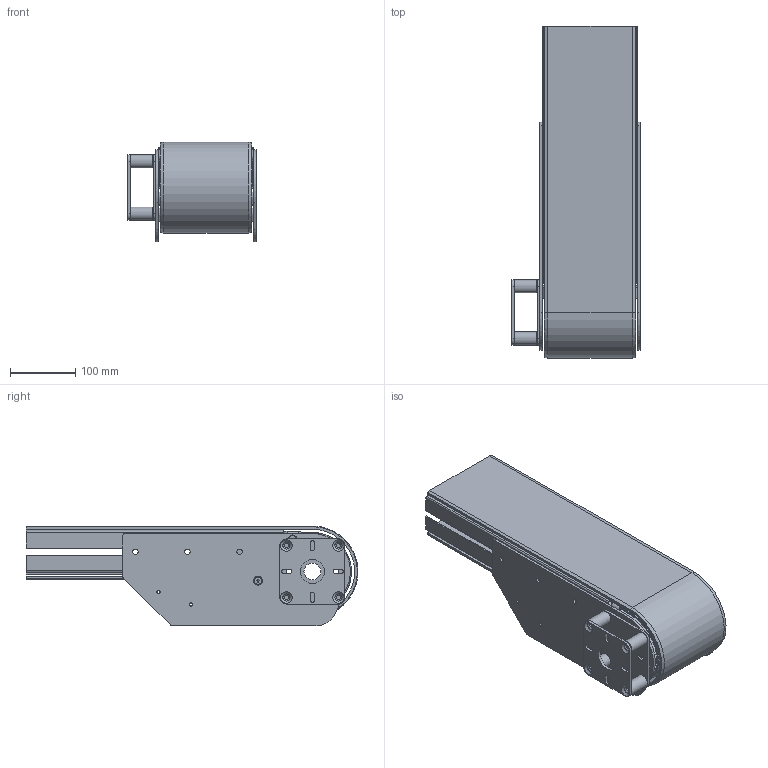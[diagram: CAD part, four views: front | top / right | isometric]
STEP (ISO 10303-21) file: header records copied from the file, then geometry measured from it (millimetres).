
FILE_DESCRIPTION(/* description */ ('DRIVE UNIT S540'),/* implementation_level */ '2;1');
FILE_NAME(/* name */ '540-30-HR.stp',/* time_stamp */ '2022-09-21T07:36:23+02:00',/* author */ ('PL'),/* organization */ ('CARRYLINE'),/* preprocessor_version */ 'ST-DEVELOPER v19.2',/* originating_system */ 'Autodesk Inventor 2023',/* authorisation */ '');
FILE_SCHEMA (('AUTOMOTIVE_DESIGN { 1 0 10303 214 3 1 1 }'));
Length unit declared in the file: millimetre
Products named in the file (5): 540-30-HR; Drivände S540; 500-3077; 500-3150; 500-3075
Assembly tree (7 placements, depth 2):
  540-30-HR
    Drivände S540
    500-3077
    500-3150  x4
    500-3075
Bounding box: 197 x 509.96 x 153.5 mm (x, y, z)
Volume: 1646244.6 mm3; surface area: 799899.5 mm2
Topology: 7 solids, 7 shells, 416 faces, 1058 edges, 666 vertices
Faces by surface type: plane 230, cylinder 134, cone 52
Full cylindrical faces by diameter (mm): 5.2 x4, 6 x6, 6.2 x6, 6.647 x4, 8.2 x6, 10.2 x4, 11 x8, 11.34 x6, 20 x4, 26 x3, 37 x1
Entity records: 12584 total; most frequent: CARTESIAN_POINT 2206, DIRECTION 2078, ORIENTED_EDGE 2014, EDGE_CURVE 1007, AXIS2_PLACEMENT_3D 717, LINE 644, VECTOR 644, VERTEX_POINT 639
